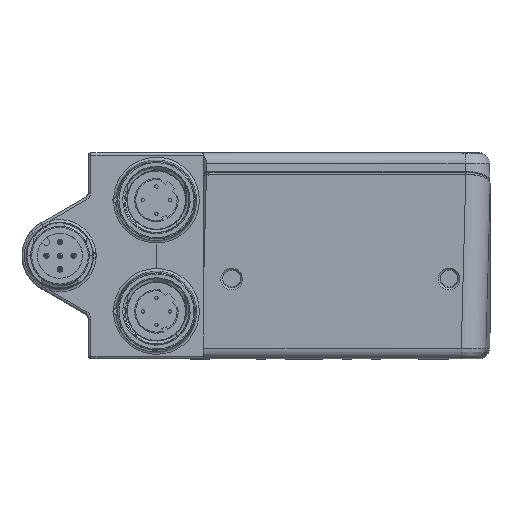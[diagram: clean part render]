
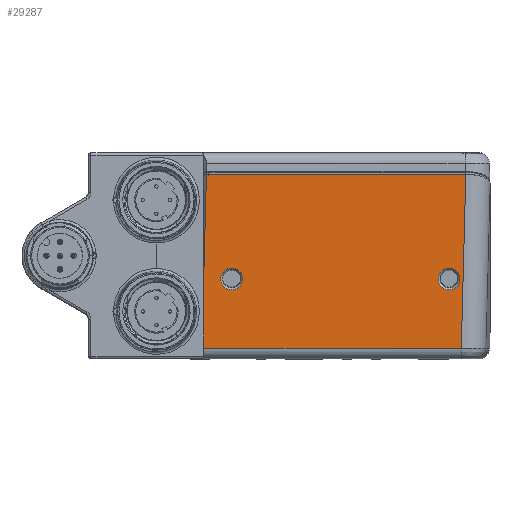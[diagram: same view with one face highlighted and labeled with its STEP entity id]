
A CAD part, front view. The second image highlights one B-rep face of the part: STEP entity #29287.
In plain terms, the highlighted planar face has unit normal (0, -1, -0.026).
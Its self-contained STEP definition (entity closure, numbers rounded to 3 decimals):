
#6556=LINE('',#126668,#13658);
#6585=LINE('',#126789,#13687);
#6586=LINE('',#126797,#13688);
#6587=LINE('',#126799,#13689);
#13658=VECTOR('',#97402,1.);
#13687=VECTOR('',#97477,1.);
#13688=VECTOR('',#97486,1.);
#13689=VECTOR('',#97487,1.);
#20229=PLANE('',#88714);
#29287=ADVANCED_FACE('',(#33851,#33852,#33853),#20229,.T.);
#33851=FACE_BOUND('',#35524,.T.);
#33852=FACE_BOUND('',#35525,.T.);
#33853=FACE_BOUND('',#35526,.T.);
#35524=EDGE_LOOP('',(#44096));
#35525=EDGE_LOOP('',(#44097));
#35526=EDGE_LOOP('',(#44098,#44099,#44100,#44101));
#44096=ORIENTED_EDGE('',*,*,#75343,.T.);
#44097=ORIENTED_EDGE('',*,*,#75344,.T.);
#44098=ORIENTED_EDGE('',*,*,#75341,.T.);
#44099=ORIENTED_EDGE('',*,*,#75295,.T.);
#44100=ORIENTED_EDGE('',*,*,#75345,.F.);
#44101=ORIENTED_EDGE('',*,*,#75346,.T.);
#66486=VERTEX_POINT('',#126667);
#66487=VERTEX_POINT('',#126669);
#66530=VERTEX_POINT('',#126790);
#66531=VERTEX_POINT('',#126794);
#66532=VERTEX_POINT('',#126796);
#66533=VERTEX_POINT('',#126798);
#75295=EDGE_CURVE('',#66487,#66486,#6556,.T.);
#75341=EDGE_CURVE('',#66530,#66487,#6585,.T.);
#75343=EDGE_CURVE('',#66531,#66531,#86278,.T.);
#75344=EDGE_CURVE('',#66532,#66532,#86279,.T.);
#75345=EDGE_CURVE('',#66533,#66486,#6586,.T.);
#75346=EDGE_CURVE('',#66533,#66530,#6587,.T.);
#86278=CIRCLE('',#88712,2.);
#86279=CIRCLE('',#88713,2.);
#88712=AXIS2_PLACEMENT_3D('',#126793,#97482,#97483);
#88713=AXIS2_PLACEMENT_3D('',#126795,#97484,#97485);
#88714=AXIS2_PLACEMENT_3D('',#126800,#97488,#97489);
#97402=DIRECTION('',(-1.,0.,0.));
#97477=DIRECTION('',(0.026,-0.026,0.999));
#97482=DIRECTION('',(0.,1.,0.026));
#97483=DIRECTION('',(0.,0.026,-1.));
#97484=DIRECTION('',(0.,1.,0.026));
#97485=DIRECTION('',(0.,0.026,-1.));
#97486=DIRECTION('',(0.026,-0.026,0.999));
#97487=DIRECTION('',(1.,0.,0.));
#97488=DIRECTION('',(0.,-1.,-0.026));
#97489=DIRECTION('',(0.,0.026,-1.));
#126667=CARTESIAN_POINT('',(-24.096,-49.694,34.));
#126668=CARTESIAN_POINT('',(43.854,-49.694,34.));
#126669=CARTESIAN_POINT('',(23.648,-49.694,34.));
#126789=CARTESIAN_POINT('',(23.628,-49.674,33.228));
#126790=CARTESIAN_POINT('',(22.817,-48.855,1.948));
#126793=CARTESIAN_POINT('',(20.554,-49.189,14.718));
#126794=CARTESIAN_POINT('',(20.554,-49.137,12.719));
#126795=CARTESIAN_POINT('',(-19.446,-49.189,14.718));
#126796=CARTESIAN_POINT('',(-19.446,-49.137,12.719));
#126797=CARTESIAN_POINT('',(-24.084,-49.706,34.469));
#126798=CARTESIAN_POINT('',(-24.936,-48.855,1.948));
#126799=CARTESIAN_POINT('',(-6.146,-48.855,1.948));
#126800=CARTESIAN_POINT('',(-6.146,-49.694,34.));
